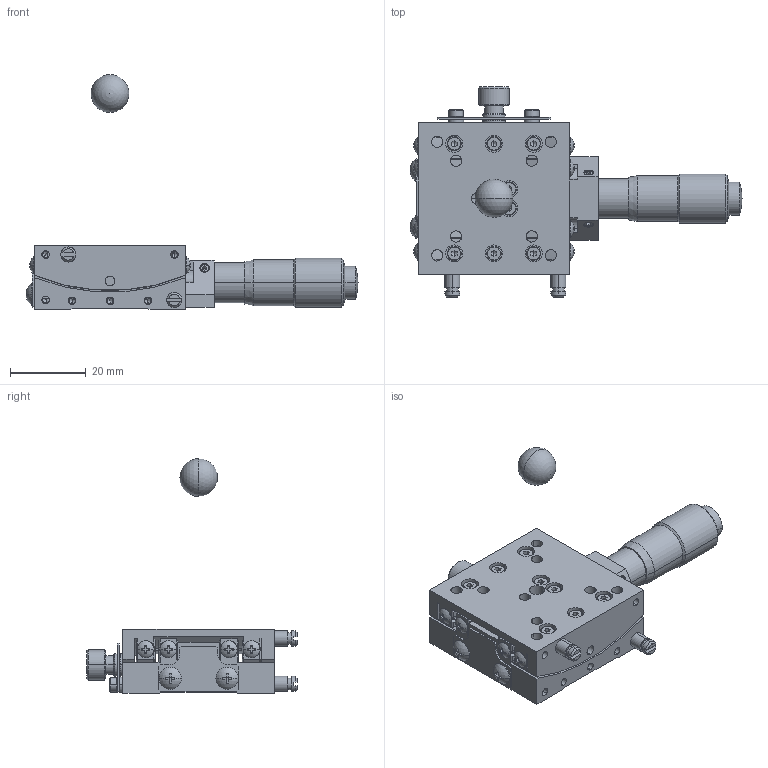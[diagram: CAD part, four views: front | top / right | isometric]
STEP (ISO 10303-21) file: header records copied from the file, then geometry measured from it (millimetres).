
FILE_DESCRIPTION (( 'STEP AP203' ), '1' );
FILE_NAME ('ST04A-C1T.STEP', '2010-01-06T04:51:38', ( ' ' ), ( ' ' ), 'SwSTEP 2.0', 'SolidWorks 2009', '' );
FILE_SCHEMA (( 'CONFIG_CONTROL_DESIGN' ));
Length unit declared in the file: millimetre
Products named in the file (7): DP002890-1020-00; MICROMETERHEAD(MHS4-13)spindle-2; ST04A-C1T; DP002890-1020-00-Part-1; DP002890-1010-00; DP002890-1010-00-Part-1; ST04A-C1T.sldasm-Part-1
Assembly tree (6 placements, depth 3):
  ST04A-C1T
    DP002890-1020-00
      DP002890-1020-00-Part-1
    ST04A-C1T.sldasm-Part-1
    DP002890-1010-00
      DP002890-1010-00-Part-1
    MICROMETERHEAD(MHS4-13)spindle-2
Bounding box: 87.68 x 55.5 x 62 mm (x, y, z)
Volume: 28044.7 mm3; surface area: 22825.3 mm2
Topology: 4 solids, 48 shells, 1605 faces, 3826 edges, 2278 vertices
Faces by surface type: plane 695, cylinder 522, cone 354, sphere 26, torus 8
Entity records: 48602 total; most frequent: CARTESIAN_POINT 10622, DIRECTION 8180, ORIENTED_EDGE 7446, EDGE_CURVE 3723, AXIS2_PLACEMENT_3D 3162, VERTEX_POINT 2275, VECTOR 1856, LINE 1856
